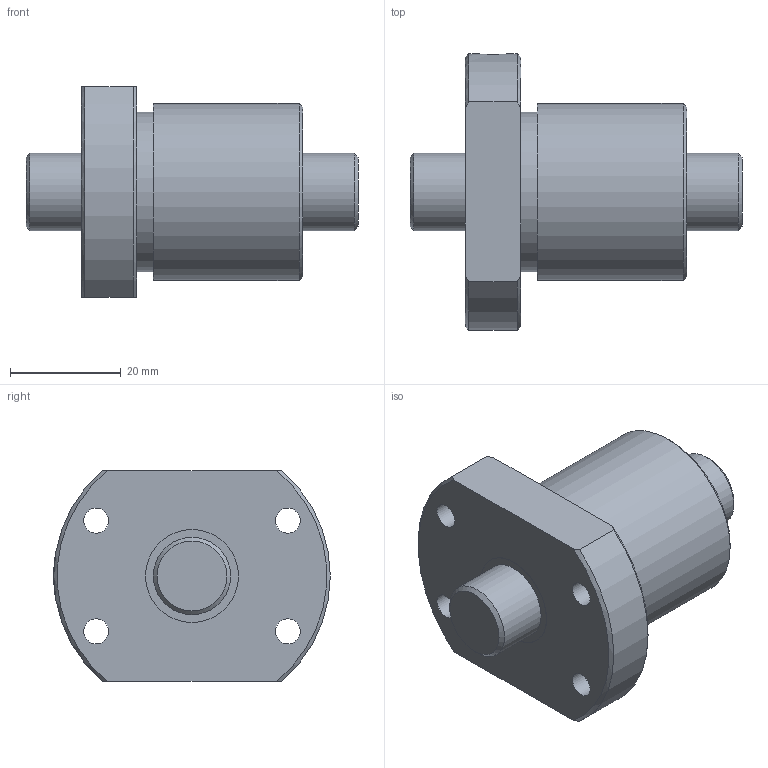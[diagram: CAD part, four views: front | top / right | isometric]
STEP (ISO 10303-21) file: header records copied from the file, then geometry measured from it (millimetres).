
FILE_DESCRIPTION(/* description */ ('STEP AP203'),/* implementation_level */ '2;1');
FILE_NAME(/* name */ 'BTK1405V-2.6ZZ+60LC7T_000',/* time_stamp */ '2025-01-16T07:55:44+01:00',/* author */ ('License CC BY-ND 4.0'),/* organization */ ('CADENAS'),/* preprocessor_version */ 'ST-DEVELOPER v19.3',/* originating_system */ 'PARTsolutions',/* authorisation */ ' ');
FILE_SCHEMA (('CONFIG_CONTROL_DESIGN'));
Length unit declared in the file: millimetre
Products named in the file (3): BTK1405V-2.6ZZ+60LC7T_000; BTK 1405V-2.600 Shaft; BTK 1405V-2.6ZZ Nut
Assembly tree (2 placements, depth 2):
  BTK1405V-2.6ZZ+60LC7T_000
    BTK 1405V-2.600 Shaft
    BTK 1405V-2.6ZZ Nut
Bounding box: 60 x 50 x 38 mm (x, y, z)
Volume: 42650.5 mm3; surface area: 13132.1 mm2
Topology: 2 solids, 2 shells, 31 faces, 66 edges, 43 vertices
Faces by surface type: cylinder 13, plane 10, cone 8
Full cylindrical faces by diameter (mm): 4.5 x4, 4.917 x1, 14 x2, 16.8 x2, 28.8 x1, 32 x1
Entity records: 887 total; most frequent: CARTESIAN_POINT 170, DIRECTION 140, ORIENTED_EDGE 100, AXIS2_PLACEMENT_3D 66, EDGE_LOOP 62, FACE_BOUND 62, EDGE_CURVE 50, VERTEX_POINT 42
